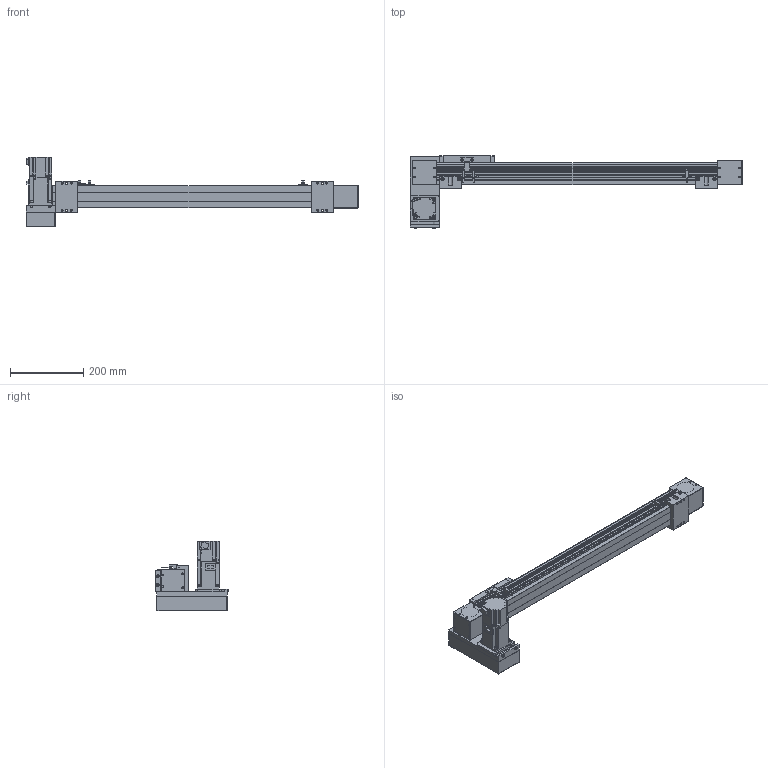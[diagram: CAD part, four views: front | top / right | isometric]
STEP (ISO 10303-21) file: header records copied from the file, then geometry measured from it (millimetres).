
FILE_DESCRIPTION(/* description */ ('STEP AP214'),/* implementation_level */ '2;1');
FILE_NAME(/* name */ 'SK60-P13-S600-LD-T40-C1-N(0)',/* time_stamp */ '2023-04-06T04:38:14+02:00',/* author */ ('License CC BY-ND 4.0'),/* organization */ ('CADENAS'),/* preprocessor_version */ 'ST-DEVELOPER v19.3',/* originating_system */ 'PARTsolutions',/* authorisation */ ' ');
FILE_SCHEMA (('AUTOMOTIVE_DESIGN {1 0 10303 214 3 1 1}'));
Length unit declared in the file: millimetre
Products named in the file (10): SK60-P13-S600-LD-T40-C1-N(0); PSC140-sensor; SK60-S450_seat; SK60-S450-BL-C1_slider; SK60_body3; SK60_body6; SK60-BL_body2; T40-p1; SK60-LD_fb; SK60-S600-LD-C1_body
Assembly tree (16 placements, depth 2):
  SK60-P13-S600-LD-T40-C1-N(0)
    PSC140-sensor  x3
    SK60-S450_seat  x2
    SK60-S450-BL-C1_slider
    SK60_body3  x3
    SK60_body6  x2
    SK60-BL_body2  x2
    T40-p1
    SK60-LD_fb
    SK60-S600-LD-C1_body
Bounding box: 905.5 x 199 x 189.7 mm (x, y, z)
Volume: 4293420.3 mm3; surface area: 564367.3 mm2
Topology: 16 solids, 16 shells, 810 faces, 2048 edges, 1349 vertices
Faces by surface type: plane 524, cylinder 262, cone 22, torus 2
Full cylindrical faces by diameter (mm): 2.8 x3, 3.3 x4, 4 x2, 4.5 x30, 4.6 x3, 4.917 x16, 5 x6, 5.478 x4, 5.5 x19, 6.5 x4, 7 x2, 8 x4, 8.5 x4, 9.988 x4, 10 x8, 14 x1, 47 x3, 50 x2
Entity records: 18655 total; most frequent: DIRECTION 3184, CARTESIAN_POINT 3150, ORIENTED_EDGE 2940, EDGE_CURVE 1470, AXIS2_PLACEMENT_3D 1068, LINE 1048, VECTOR 1048, VERTEX_POINT 1034
